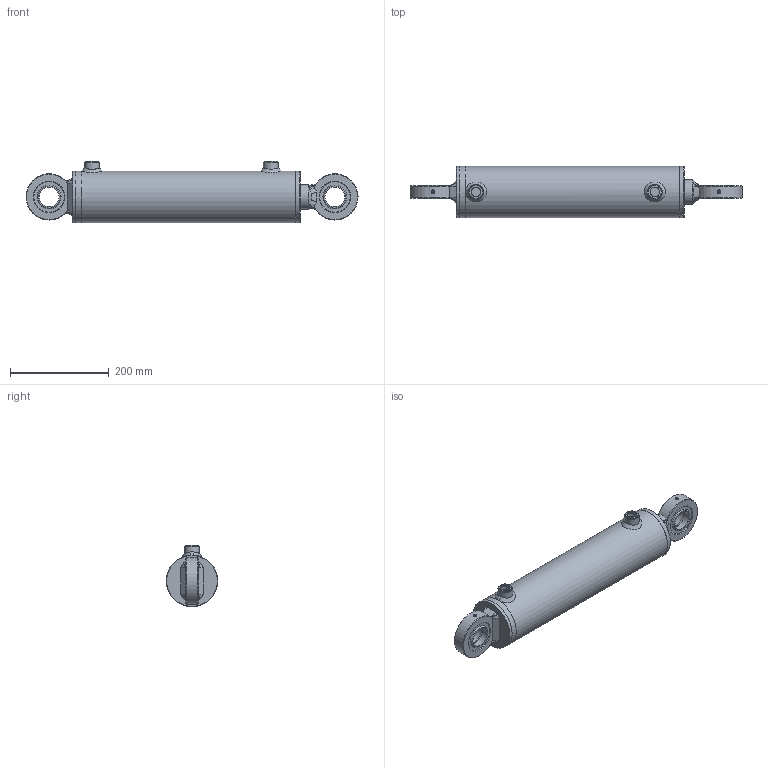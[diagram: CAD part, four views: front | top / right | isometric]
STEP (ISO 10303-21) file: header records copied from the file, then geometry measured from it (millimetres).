
FILE_DESCRIPTION( ( 'Unknown' ), '1' );
FILE_NAME( 'E:/LIBRERIA_3d/CILINDRI/HMC/HMC090500300.stp', 'Unknown', ( 'Unknown' ), ( 'Unknown' ), 'PSStep 17.0.49', 'Unknown', ' ' );
FILE_SCHEMA( ( 'AUTOMOTIVE_DESIGN { 1 0 10303 214 1 1 1 1 }' ) );
Length unit declared in the file: millimetre
Products named in the file (27): STL0901050300-oa4; Saldatura d'angolo 1-oa2; MAT_PRIMA_TUBO_FT10509000-oa3; CBSC220800; CT00090033; CG10509050; CAGEG09406240; CAGE094062; CGE0400000; HM0090500300; CF00090105; SBL0500900300; CBS0800000; APG0800000; CDA0003320; Saldatura con preparazione 1-oa5; Saldatura d'angolo 1-oa6; Assem1; Saldatura d'angolo 1-oa0; Saldatura d'angolo 2-oa1
Assembly tree (20 placements, depth 4):
  Saldatura d'angolo 1-oa2
  Saldatura d'angolo 1-oa2
  Saldatura d'angolo 1-oa6
  Saldatura d'angolo 1-oa6
  Assem1
    CAGEG09406240  x2
      CAGE094062
      CGE0400000
    HM0090500300
      CF00090105
      SBL0500900300
      CBS0800000
      APG0800000  x2
      CDA0003320
      Saldatura con preparazione 1-oa5
      Saldatura con preparazione 1-oa5
      STL0901050300-oa4
        MAT_PRIMA_TUBO_FT10509000-oa3
        CBSC220800
      CG10509050
        CG10509050
      CT00090033
        CT00090033
Bounding box: 674 x 105 x 125 mm (x, y, z)
Volume: 2864252.1 mm3; surface area: 589695.2 mm2
Topology: 24 solids, 24 shells, 414 faces, 916 edges, 499 vertices
Faces by surface type: bspline 164, plane 84, cylinder 78, cone 46, torus 36, sphere 6
Full cylindrical faces by diameter (mm): 2.5 x4, 4.25 x1, 5 x2, 8 x2, 12 x1, 18.631 x2, 19.5 x2, 20.95 x2, 26 x2, 30 x2, 32.4 x1, 33 x5, 39.2 x1, 40 x4, 50 x6, 53 x3, 58.6 x1, 60 x1, 62 x6, 70 x1, 81.5 x1, 84.15 x2, 88.31 x2, 89.9 x1, 90 x1, 90.3 x1, 90.5 x1, 90.6 x1, 91 x1, 92 x3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
Entity records: 18377 total; most frequent: CARTESIAN_POINT 9335, ORIENTED_EDGE 1132, DIRECTION 920, EDGE_LOOP 573, EDGE_CURVE 566, FACE_OUTER_BOUND 481, AXIS2_PLACEMENT_3D 445, VERTEX_POINT 392
